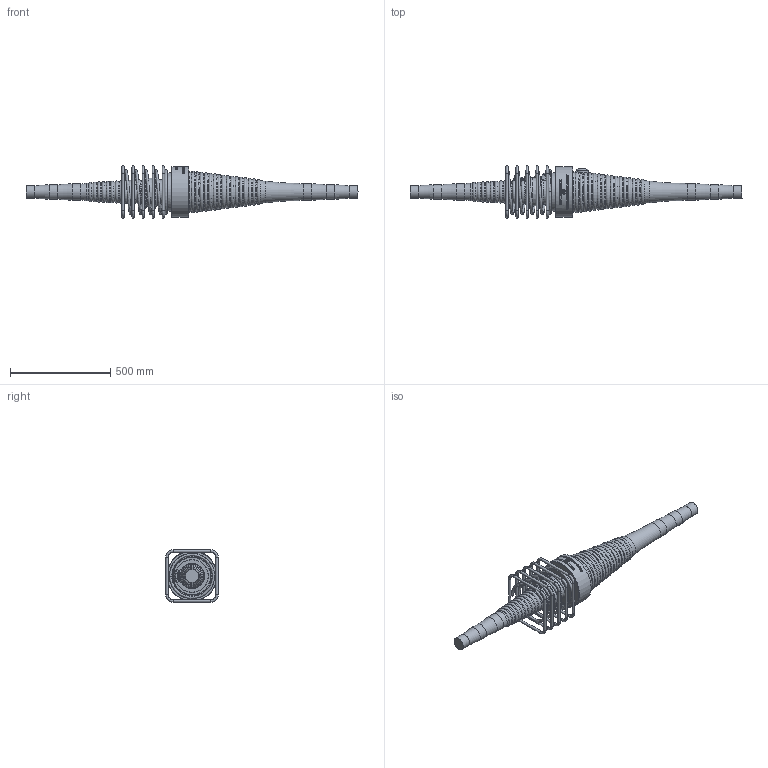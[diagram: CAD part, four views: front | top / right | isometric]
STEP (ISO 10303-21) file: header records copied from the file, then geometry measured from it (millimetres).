
FILE_DESCRIPTION(/* description */ (''),/* implementation_level */ '2;1');
FILE_NAME(/* name */ 'BBR VT CONA CMI BT 806_Couler K Assembly_CS-34,28.stp',/* time_stamp */ '2025-05-05T15:14:29+02:00',/* author */ ('tk'),/* organization */ (''),/* preprocessor_version */ 'ST-DEVELOPER v20',/* originating_system */ 'Autodesk Inventor 2024',/* authorisation */ '');
FILE_SCHEMA (('AUTOMOTIVE_DESIGN { 1 0 10303 214 3 1 1 }'));
Products named in the file (1): BBR VT CONA CMI BT 806_Couler K Assembly_CS-34,28
Bounding box: 1652.56 x 260 x 260 mm (x, y, z)
Volume: 21685378.7 mm3; surface area: 1027391.8 mm2
Topology: 7 solids, 7 shells, 975 faces, 2563 edges, 1661 vertices
Faces by surface type: bspline 424, plane 254, torus 131, cylinder 110, cone 34, sphere 22
Full cylindrical faces by diameter (mm): 12 x20, 34 x2, 57 x2, 64 x1, 64.013 x1, 74 x1, 74.013 x1, 84 x1, 84.013 x1, 163.937 x1, 165.108 x1, 190 x1, 240 x1, 246 x1, 250 x1
Entity records: 43386 total; most frequent: CARTESIAN_POINT 21651, ORIENTED_EDGE 5118, DIRECTION 3290, EDGE_CURVE 2559, VERTEX_POINT 1661, AXIS2_PLACEMENT_3D 1232, B_SPLINE_CURVE_WITH_KNOTS 1053, EDGE_LOOP 1048
